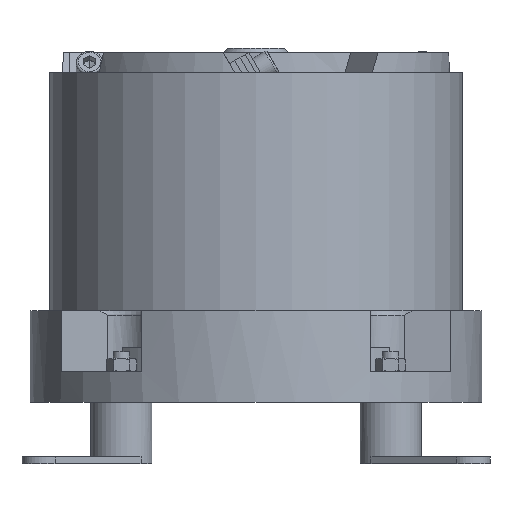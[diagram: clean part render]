
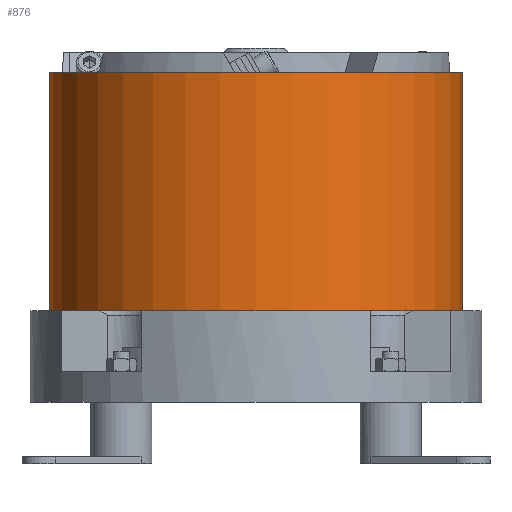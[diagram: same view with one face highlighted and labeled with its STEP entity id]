
A CAD part, front view. The second image highlights one B-rep face of the part: STEP entity #876.
In plain terms, the highlighted cylindrical face has radius 101.5 mm (diameter 203 mm), a partial arc.
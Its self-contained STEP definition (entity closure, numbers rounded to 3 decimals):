
#415=CYLINDRICAL_SURFACE('',#9151,101.5);
#876=ADVANCED_FACE('NONE',(#1677),#415,.T.);
#1677=FACE_OUTER_BOUND('',#2145,.T.);
#2145=EDGE_LOOP('',(#4224,#4225,#4226,#4227));
#2750=LINE('',#12814,#3422);
#2751=LINE('',#12815,#3423);
#3422=VECTOR('',#10246,1.);
#3423=VECTOR('',#10247,1.);
#4224=ORIENTED_EDGE('',*,*,#7476,.F.);
#4225=ORIENTED_EDGE('',*,*,#7471,.T.);
#4226=ORIENTED_EDGE('',*,*,#7477,.T.);
#4227=ORIENTED_EDGE('',*,*,#7473,.T.);
#6615=VERTEX_POINT('',#12803);
#6616=VERTEX_POINT('',#12804);
#6617=VERTEX_POINT('',#12809);
#6618=VERTEX_POINT('',#12810);
#7471=EDGE_CURVE('NONE',#6616,#6615,#8668,.T.);
#7473=EDGE_CURVE('NONE',#6617,#6618,#8670,.T.);
#7476=EDGE_CURVE('NONE',#6616,#6618,#2750,.T.);
#7477=EDGE_CURVE('NONE',#6615,#6617,#2751,.T.);
#8668=CIRCLE('',#9144,101.5);
#8670=CIRCLE('',#9147,101.5);
#9144=AXIS2_PLACEMENT_3D('',#12805,#10232,#10233);
#9147=AXIS2_PLACEMENT_3D('',#12808,#10238,#10239);
#9151=AXIS2_PLACEMENT_3D('',#12816,#10248,#10249);
#10232=DIRECTION('',(0.,0.,-1.));
#10233=DIRECTION('',(-1.,0.,0.));
#10238=DIRECTION('',(0.,0.,1.));
#10239=DIRECTION('',(-1.,0.,0.));
#10246=DIRECTION('',(0.,0.,-1.));
#10247=DIRECTION('',(0.,0.,-1.));
#10248=DIRECTION('',(0.,0.,-1.));
#10249=DIRECTION('',(-1.,0.,0.));
#12803=CARTESIAN_POINT('',(-160.914,28.583,343.));
#12804=CARTESIAN_POINT('',(42.086,28.583,343.));
#12805=CARTESIAN_POINT('',(-59.414,28.583,343.));
#12808=CARTESIAN_POINT('',(-59.414,28.583,226.));
#12809=CARTESIAN_POINT('',(-160.914,28.583,226.));
#12810=CARTESIAN_POINT('',(42.086,28.583,226.));
#12814=CARTESIAN_POINT('',(42.086,28.583,343.));
#12815=CARTESIAN_POINT('',(-160.914,28.583,343.));
#12816=CARTESIAN_POINT('',(-59.414,28.583,343.));
